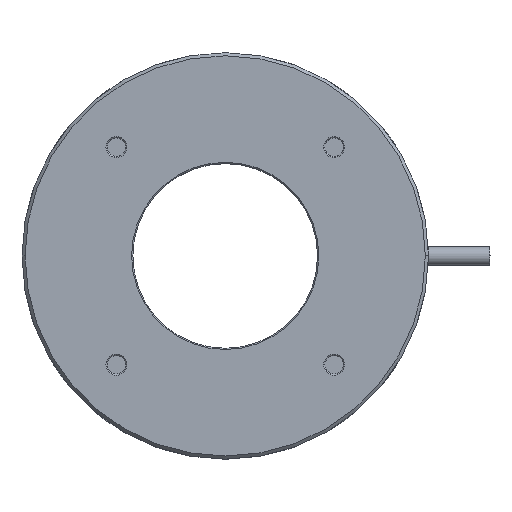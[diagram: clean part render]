
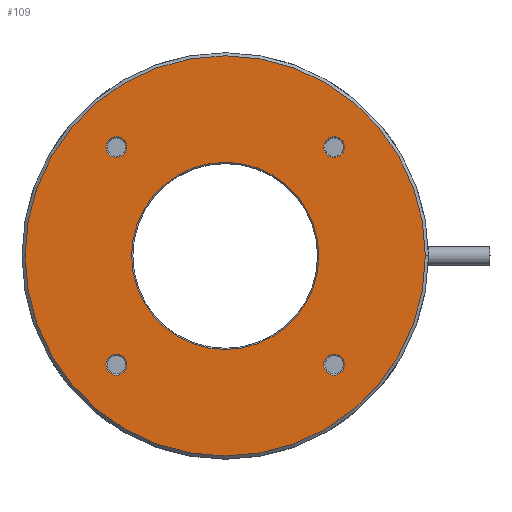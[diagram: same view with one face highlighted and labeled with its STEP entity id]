
A CAD part, top view. The second image highlights one B-rep face of the part: STEP entity #109.
In plain terms, the highlighted planar face has unit normal (0, 0, 1).
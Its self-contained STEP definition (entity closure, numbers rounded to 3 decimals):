
#109=ADVANCED_FACE('',(#195,#196,#197,#198,#199,#200),#201,.T.);
#195=FACE_BOUND('',#321,.T.);
#196=FACE_BOUND('',#322,.T.);
#197=FACE_OUTER_BOUND('',#323,.T.);
#198=FACE_BOUND('',#324,.T.);
#199=FACE_BOUND('',#325,.T.);
#200=FACE_BOUND('',#326,.T.);
#201=PLANE('',#327);
#321=EDGE_LOOP('',(#572,#573));
#322=EDGE_LOOP('',(#574,#575));
#323=EDGE_LOOP('',(#576,#577));
#324=EDGE_LOOP('',(#578,#579));
#325=EDGE_LOOP('',(#580,#581));
#326=EDGE_LOOP('',(#582,#583));
#327=AXIS2_PLACEMENT_3D('',#584,#585,#586);
#572=ORIENTED_EDGE('',*,*,#884,.F.);
#573=ORIENTED_EDGE('',*,*,#894,.F.);
#574=ORIENTED_EDGE('',*,*,#868,.F.);
#575=ORIENTED_EDGE('',*,*,#895,.F.);
#576=ORIENTED_EDGE('',*,*,#829,.F.);
#577=ORIENTED_EDGE('',*,*,#896,.F.);
#578=ORIENTED_EDGE('',*,*,#860,.F.);
#579=ORIENTED_EDGE('',*,*,#897,.F.);
#580=ORIENTED_EDGE('',*,*,#876,.F.);
#581=ORIENTED_EDGE('',*,*,#898,.F.);
#582=ORIENTED_EDGE('',*,*,#892,.F.);
#583=ORIENTED_EDGE('',*,*,#893,.F.);
#584=CARTESIAN_POINT('',(122.196,0.0,122.309));
#585=DIRECTION('',(0.0,0.0,1.0));
#586=DIRECTION('',(1.0,0.0,0.0));
#829=EDGE_CURVE('',#961,#963,#964,.T.);
#860=EDGE_CURVE('',#1013,#1011,#1015,.T.);
#868=EDGE_CURVE('',#1027,#1024,#1029,.T.);
#876=EDGE_CURVE('',#1041,#1038,#1043,.T.);
#884=EDGE_CURVE('',#1055,#1052,#1057,.T.);
#892=EDGE_CURVE('',#1069,#1066,#1071,.T.);
#893=EDGE_CURVE('',#1066,#1069,#1072,.T.);
#894=EDGE_CURVE('',#1052,#1055,#1073,.T.);
#895=EDGE_CURVE('',#1024,#1027,#1074,.T.);
#896=EDGE_CURVE('',#963,#961,#1075,.T.);
#897=EDGE_CURVE('',#1011,#1013,#1076,.T.);
#898=EDGE_CURVE('',#1038,#1041,#1077,.T.);
#961=VERTEX_POINT('',#1155);
#963=VERTEX_POINT('',#1158);
#964=CIRCLE('',#1159,32.5);
#1011=VERTEX_POINT('',#1223);
#1013=VERTEX_POINT('',#1226);
#1015=CIRCLE('',#1229,15.2);
#1024=VERTEX_POINT('',#1240);
#1027=VERTEX_POINT('',#1244);
#1029=CIRCLE('',#1247,1.7);
#1038=VERTEX_POINT('',#1258);
#1041=VERTEX_POINT('',#1262);
#1043=CIRCLE('',#1265,1.7);
#1052=VERTEX_POINT('',#1276);
#1055=VERTEX_POINT('',#1280);
#1057=CIRCLE('',#1283,1.7);
#1066=VERTEX_POINT('',#1294);
#1069=VERTEX_POINT('',#1298);
#1071=CIRCLE('',#1301,1.7);
#1072=CIRCLE('',#1302,1.7);
#1073=CIRCLE('',#1303,1.7);
#1074=CIRCLE('',#1304,1.7);
#1075=CIRCLE('',#1305,32.5);
#1076=CIRCLE('',#1306,15.2);
#1077=CIRCLE('',#1307,1.7);
#1155=CARTESIAN_POINT('',(113.446,0.0,122.309));
#1158=CARTESIAN_POINT('',(178.446,0.,122.309));
#1159=AXIS2_PLACEMENT_3D('',#1376,#1377,#1378);
#1223=CARTESIAN_POINT('',(161.146,0.,122.309));
#1226=CARTESIAN_POINT('',(130.746,0.,122.309));
#1229=AXIS2_PLACEMENT_3D('',#1431,#1432,#1433);
#1240=CARTESIAN_POINT('',(161.923,17.678,122.309));
#1244=CARTESIAN_POINT('',(165.323,17.678,122.309));
#1247=AXIS2_PLACEMENT_3D('',#1447,#1448,#1449);
#1258=CARTESIAN_POINT('',(161.923,-17.678,122.309));
#1262=CARTESIAN_POINT('',(165.323,-17.678,122.309));
#1265=AXIS2_PLACEMENT_3D('',#1463,#1464,#1465);
#1276=CARTESIAN_POINT('',(126.568,-17.678,122.309));
#1280=CARTESIAN_POINT('',(129.968,-17.678,122.309));
#1283=AXIS2_PLACEMENT_3D('',#1479,#1480,#1481);
#1294=CARTESIAN_POINT('',(126.568,17.678,122.309));
#1298=CARTESIAN_POINT('',(129.968,17.678,122.309));
#1301=AXIS2_PLACEMENT_3D('',#1495,#1496,#1497);
#1302=AXIS2_PLACEMENT_3D('',#1498,#1499,#1500);
#1303=AXIS2_PLACEMENT_3D('',#1501,#1502,#1503);
#1304=AXIS2_PLACEMENT_3D('',#1504,#1505,#1506);
#1305=AXIS2_PLACEMENT_3D('',#1507,#1508,#1509);
#1306=AXIS2_PLACEMENT_3D('',#1510,#1511,#1512);
#1307=AXIS2_PLACEMENT_3D('',#1513,#1514,#1515);
#1376=CARTESIAN_POINT('',(145.946,0.0,122.309));
#1377=DIRECTION('',(0.0,0.0,-1.0));
#1378=DIRECTION('',(-1.0,0.0,0.0));
#1431=CARTESIAN_POINT('',(145.946,0.0,122.309));
#1432=DIRECTION('',(0.0,0.0,1.0));
#1433=DIRECTION('',(1.0,0.0,0.0));
#1447=CARTESIAN_POINT('',(163.623,17.678,122.309));
#1448=DIRECTION('',(0.0,0.0,1.0));
#1449=DIRECTION('',(-1.0,0.0,0.0));
#1463=CARTESIAN_POINT('',(163.623,-17.678,122.309));
#1464=DIRECTION('',(0.0,0.0,1.0));
#1465=DIRECTION('',(-1.0,0.0,0.0));
#1479=CARTESIAN_POINT('',(128.268,-17.678,122.309));
#1480=DIRECTION('',(0.0,0.0,1.0));
#1481=DIRECTION('',(-1.0,0.0,0.0));
#1495=CARTESIAN_POINT('',(128.268,17.678,122.309));
#1496=DIRECTION('',(0.0,0.0,1.0));
#1497=DIRECTION('',(-1.0,0.0,0.0));
#1498=CARTESIAN_POINT('',(128.268,17.678,122.309));
#1499=DIRECTION('',(0.0,0.0,1.0));
#1500=DIRECTION('',(-1.0,0.0,0.0));
#1501=CARTESIAN_POINT('',(128.268,-17.678,122.309));
#1502=DIRECTION('',(0.0,0.0,1.0));
#1503=DIRECTION('',(-1.0,0.0,0.0));
#1504=CARTESIAN_POINT('',(163.623,17.678,122.309));
#1505=DIRECTION('',(0.0,0.0,1.0));
#1506=DIRECTION('',(-1.0,0.0,0.0));
#1507=CARTESIAN_POINT('',(145.946,0.0,122.309));
#1508=DIRECTION('',(0.0,0.0,-1.0));
#1509=DIRECTION('',(-1.0,0.0,0.0));
#1510=CARTESIAN_POINT('',(145.946,0.0,122.309));
#1511=DIRECTION('',(0.0,0.0,1.0));
#1512=DIRECTION('',(1.0,0.0,0.0));
#1513=CARTESIAN_POINT('',(163.623,-17.678,122.309));
#1514=DIRECTION('',(0.0,0.0,1.0));
#1515=DIRECTION('',(-1.0,0.0,0.0));
